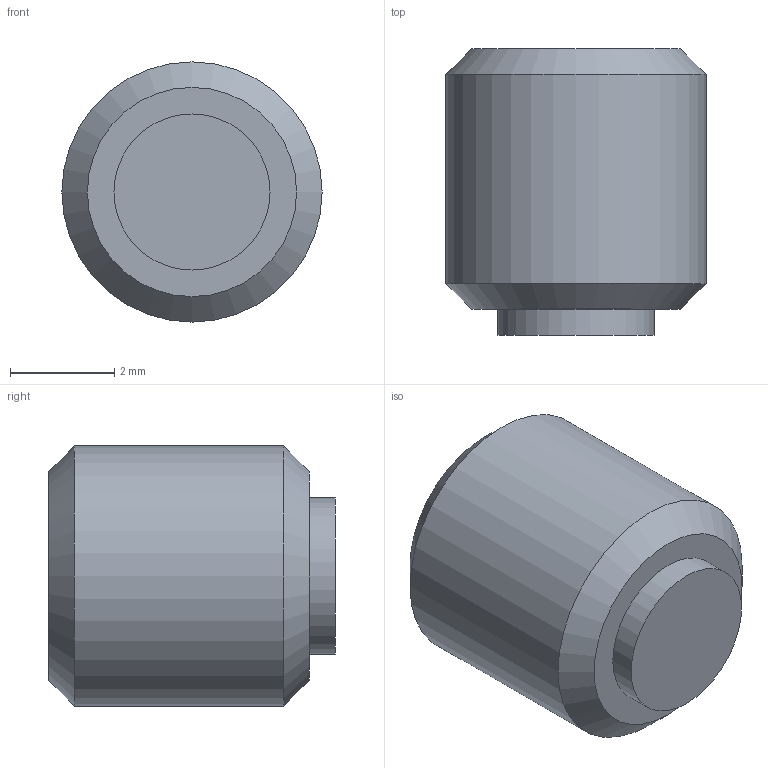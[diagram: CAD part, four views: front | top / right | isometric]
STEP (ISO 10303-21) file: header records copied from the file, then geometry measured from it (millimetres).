
FILE_DESCRIPTION( ( 'STEP AP203' ), '1' );
FILE_NAME( 'C:/Temp/Ganter_Step_05_03_2020/data/3_2/gn913_3/Grub screw GN 913.3-M5-5-MS.stp', '2020-03-13T05:35:46', ( 'License CC BY-ND 4.0' ), ( 'CADENAS' ), ' ', 'PARTsolutions', ' ' );
FILE_SCHEMA( ( 'CONFIG_CONTROL_DESIGN' ) );
Length unit declared in the file: millimetre
Products named in the file (1): _Grub screw GN 913.3-M5-5-MS
Bounding box: 5 x 5.5 x 5 mm (x, y, z)
Volume: 81.9 mm3; surface area: 138.9 mm2
Topology: 1 solids, 1 shells, 14 faces, 28 edges, 18 vertices
Faces by surface type: plane 10, cylinder 2, cone 2
Full cylindrical faces by diameter (mm): 3 x1, 5 x1
Entity records: 386 total; most frequent: DIRECTION 60, CARTESIAN_POINT 57, ORIENTED_EDGE 48, EDGE_CURVE 24, AXIS2_PLACEMENT_3D 21, EDGE_LOOP 20, VERTEX_POINT 18, LINE 18
